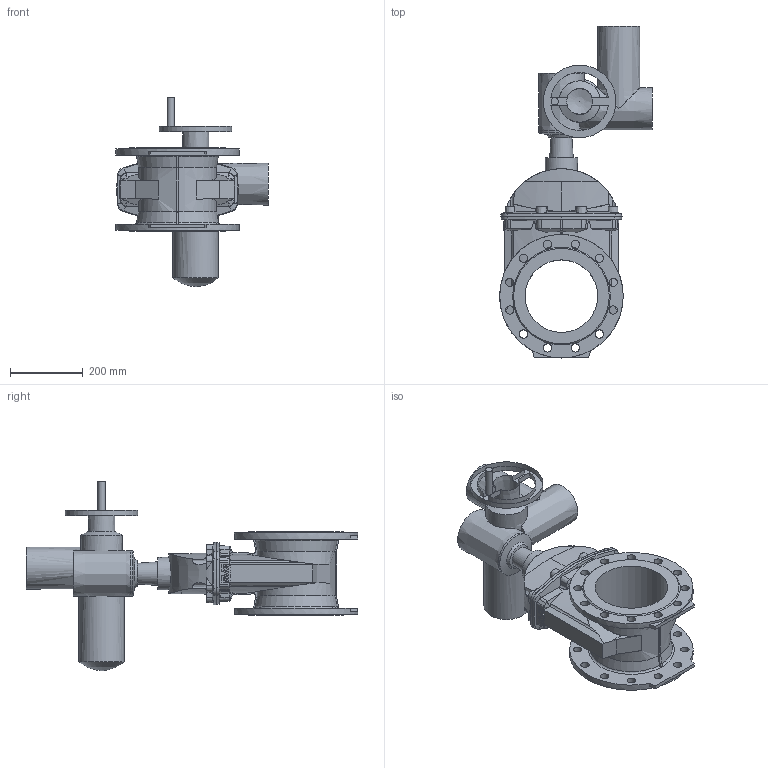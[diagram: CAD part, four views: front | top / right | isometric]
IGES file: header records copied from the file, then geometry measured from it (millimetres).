
Start section: SolidWorks IGES file using analytic representation for surfaces
Global section: file name: \\avksan2\techshare\PBM outline export from Enovia\O_15_42_DN200_X1XXX099_SA10.2_AA0.igs; native system: SolidWorks 2012; preprocessor: SolidWorks 2012; author: pbm; date: 170320.134038; units: inch
Bounding box: 420 x 914 x 521 mm (x, y, z)
Surface area: 1211737.7 mm2 (no closed solid volume)
Topology: 0 solids, 0 shells, 399 faces, 2257 edges, 2161 vertices
Faces by surface type: revolution 229, bspline 170
